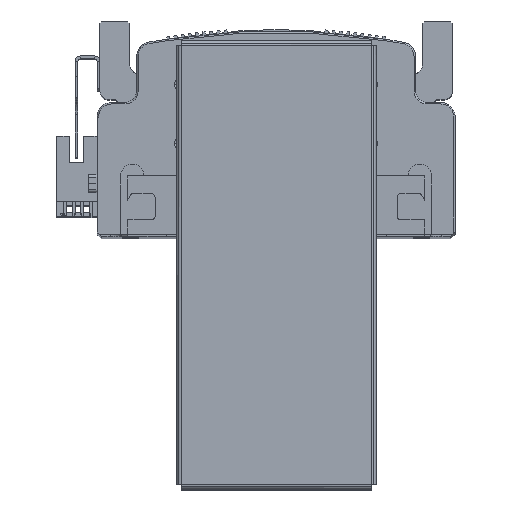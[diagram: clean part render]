
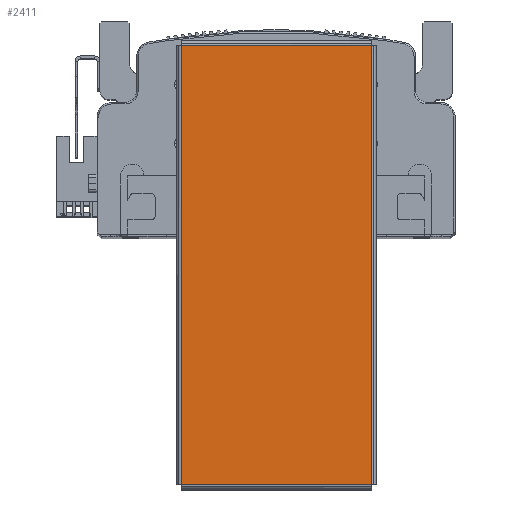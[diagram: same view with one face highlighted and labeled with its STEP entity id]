
A CAD part, top view. The second image highlights one B-rep face of the part: STEP entity #2411.
In plain terms, the highlighted planar face has unit normal (0, 0, 1) as drawn and (0, 0, -1) by its records, which use the part's own axes.
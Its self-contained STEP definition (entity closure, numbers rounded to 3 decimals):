
#2283 = FACE_OUTER_BOUND ( 'NONE', #73760, .T. ) ;
#2411 = ADVANCED_FACE ( 'NONE', ( #2283 ), #18599, .F. ) ;
#4546 = AXIS2_PLACEMENT_3D ( 'NONE', #18662, #18629, #18634 ) ;
#12236 = EDGE_CURVE ( 'NONE', #75342, #75292, #23986, .T. ) ;
#12238 = EDGE_CURVE ( 'NONE', #75316, #75311, #24019, .T. ) ;
#12277 = EDGE_CURVE ( 'NONE', #75311, #75342, #24099, .T. ) ;
#12409 = EDGE_CURVE ( 'NONE', #75292, #75316, #24148, .T. ) ;
#18177 = DIRECTION ( 'NONE',  ( 0., 1., 0. ) ) ;
#18181 = CARTESIAN_POINT ( 'NONE',  ( 74.763, 32.393, -1. ) ) ;
#18208 = CARTESIAN_POINT ( 'NONE',  ( -74.763, -32.393, -1. ) ) ;
#18235 = DIRECTION ( 'NONE',  ( 0., -1., 0. ) ) ;
#18599 = PLANE ( 'NONE',  #4546 ) ;
#18629 = DIRECTION ( 'NONE',  ( 0., 0., 1. ) ) ;
#18634 = DIRECTION ( 'NONE',  ( 1., 0., 0. ) ) ;
#18662 = CARTESIAN_POINT ( 'NONE',  ( 0., 0., -1. ) ) ;
#23986 = LINE ( 'NONE', #18208, #24008 ) ;
#24008 = VECTOR ( 'NONE', #18177, 1000. ) ;
#24019 = LINE ( 'NONE', #18181, #24040 ) ;
#24040 = VECTOR ( 'NONE', #18235, 1000. ) ;
#24051 = VECTOR ( 'NONE', #25969, 1000. ) ;
#24099 = LINE ( 'NONE', #25818, #24051 ) ;
#24148 = LINE ( 'NONE', #26256, #24156 ) ;
#24156 = VECTOR ( 'NONE', #26278, 1000. ) ;
#25818 = CARTESIAN_POINT ( 'NONE',  ( 74.793, -32.363, -1. ) ) ;
#25969 = DIRECTION ( 'NONE',  ( -1., 0., 0. ) ) ;
#26256 = CARTESIAN_POINT ( 'NONE',  ( -74.793, 32.363, -1. ) ) ;
#26278 = DIRECTION ( 'NONE',  ( 1., 0., 0. ) ) ;
#41065 = ORIENTED_EDGE ( 'NONE', *, *, #12277, .T. ) ;
#41071 = ORIENTED_EDGE ( 'NONE', *, *, #12236, .T. ) ;
#41085 = ORIENTED_EDGE ( 'NONE', *, *, #12238, .T. ) ;
#41086 = ORIENTED_EDGE ( 'NONE', *, *, #12409, .T. ) ;
#58615 = CARTESIAN_POINT ( 'NONE',  ( -74.763, 32.363, -1. ) ) ;
#58653 = CARTESIAN_POINT ( 'NONE',  ( 74.763, -32.363, -1. ) ) ;
#58658 = CARTESIAN_POINT ( 'NONE',  ( 74.763, 32.363, -1. ) ) ;
#58696 = CARTESIAN_POINT ( 'NONE',  ( -74.763, -32.363, -1. ) ) ;
#73760 = EDGE_LOOP ( 'NONE', ( #41085, #41065, #41071, #41086 ) ) ;
#75292 = VERTEX_POINT ( 'NONE', #58615 ) ;
#75311 = VERTEX_POINT ( 'NONE', #58653 ) ;
#75316 = VERTEX_POINT ( 'NONE', #58658 ) ;
#75342 = VERTEX_POINT ( 'NONE', #58696 ) ;
